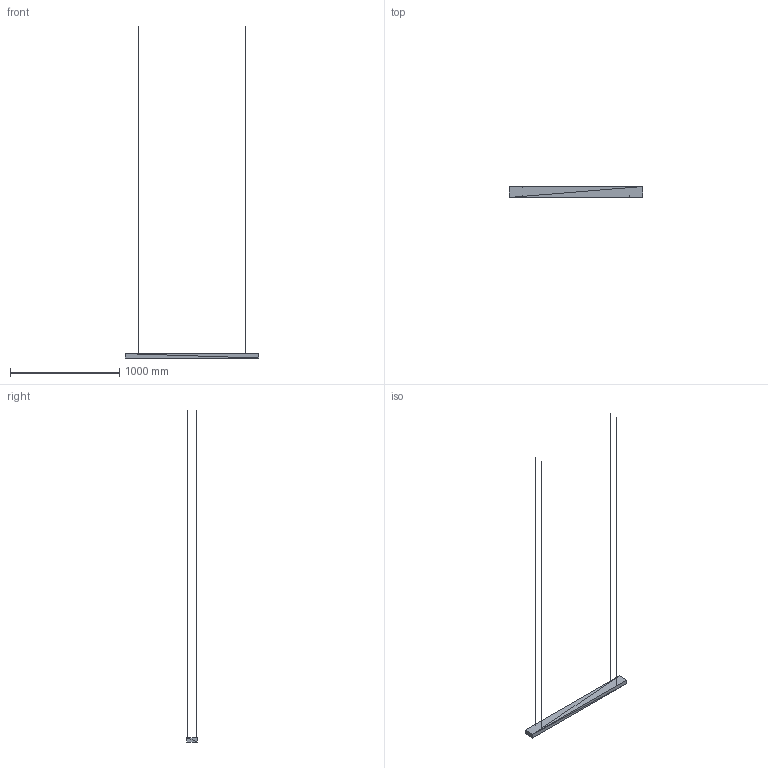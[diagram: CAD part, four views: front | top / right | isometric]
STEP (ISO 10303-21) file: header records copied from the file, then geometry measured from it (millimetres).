
FILE_DESCRIPTION(('ISINAC STEP AP214'),'2;1');
FILE_NAME('ISINAC_R.1220.100_40mm_COLGADO','2026-05-03T10:49:19',('ISINAC'),('www.isinac.com'),'ISINAC BIM Generator 1.0','','');
FILE_SCHEMA(('AUTOMOTIVE_DESIGN'));
Length unit declared in the file: millimetre
Products named in the file (1): ISINAC_R.1220.100_40mm_COLGADO
Bounding box: 1220 x 100 x 3040 mm (x, y, z)
Surface area: 457646.8 mm2 (no closed solid volume)
Topology: 0 solids, 92 shells, 92 faces, 276 edges, 276 vertices
Faces by surface type: plane 92
Entity records: 1025 total; most frequent: CARTESIAN_POINT 368, DIRECTION 184, POLY_LOOP 92, FACE_OUTER_BOUND 92, AXIS2_PLACEMENT_3D 92, PLANE 92, FACE_SURFACE 92, CLOSED_SHELL 1
